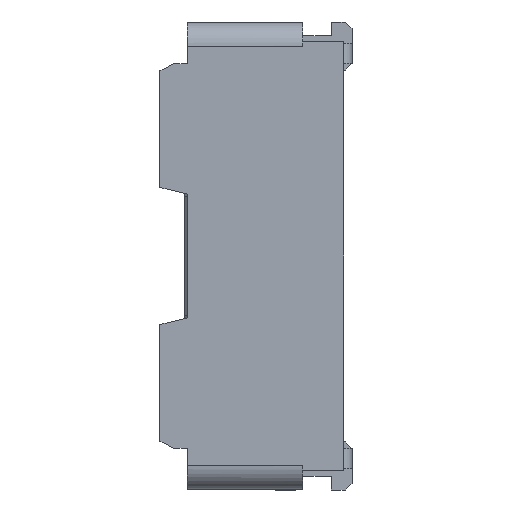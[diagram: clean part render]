
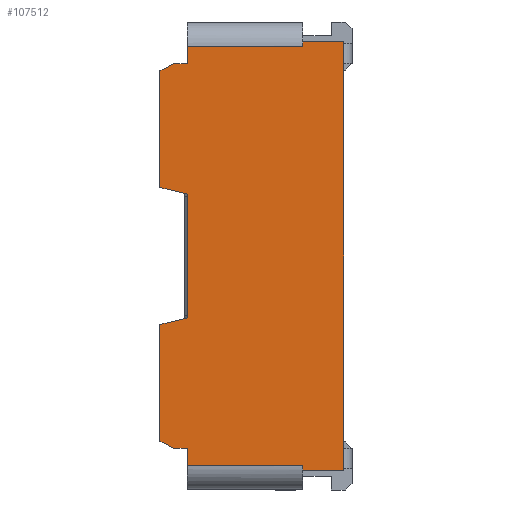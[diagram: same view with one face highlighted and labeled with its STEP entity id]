
A CAD part, left-side view. The second image highlights one B-rep face of the part: STEP entity #107512.
In plain terms, the highlighted planar face has unit normal (-1, 0, 0).
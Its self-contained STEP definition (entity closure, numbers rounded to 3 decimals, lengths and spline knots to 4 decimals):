
#4329=DIRECTION('',(0.,1.,0.));
#4330=VECTOR('',#4329,0.1);
#4331=CARTESIAN_POINT('',(-6.95,0.57,1.4));
#4332=LINE('',#4331,#4330);
#6887=DIRECTION('',(0.,0.,-1.));
#6888=VECTOR('',#6887,3.12);
#6889=CARTESIAN_POINT('',(-6.95,-0.57,1.56));
#6890=LINE('',#6889,#6888);
#38891=DIRECTION('',(0.,0.,1.));
#38892=VECTOR('',#38891,0.85);
#38893=CARTESIAN_POINT('',(-6.95,0.77,0.5));
#38894=LINE('',#38893,#38892);
#38916=DIRECTION('',(0.,0.,1.));
#38917=VECTOR('',#38916,0.85);
#38918=CARTESIAN_POINT('',(-6.95,0.77,-1.35));
#38919=LINE('',#38918,#38917);
#39130=DIRECTION('',(0.,0.,-1.));
#39131=VECTOR('',#39130,0.125);
#39132=CARTESIAN_POINT('',(-6.95,0.57,1.525));
#39133=LINE('',#39132,#39131);
#39134=DIRECTION('',(0.,-1.,0.));
#39135=VECTOR('',#39134,0.84);
#39136=CARTESIAN_POINT('',(-6.95,0.57,1.525));
#39137=LINE('',#39136,#39135);
#39138=DIRECTION('',(0.,0.,1.));
#39139=VECTOR('',#39138,0.035);
#39140=CARTESIAN_POINT('',(-6.95,-0.27,1.525));
#39141=LINE('',#39140,#39139);
#39142=DIRECTION('',(0.,1.,0.));
#39143=VECTOR('',#39142,0.3);
#39144=CARTESIAN_POINT('',(-6.95,-0.57,1.56));
#39145=LINE('',#39144,#39143);
#39146=DIRECTION('',(0.,1.,0.));
#39147=VECTOR('',#39146,0.3);
#39148=CARTESIAN_POINT('',(-6.95,-0.57,-1.56));
#39149=LINE('',#39148,#39147);
#39150=DIRECTION('',(0.,0.,-1.));
#39151=VECTOR('',#39150,0.035);
#39152=CARTESIAN_POINT('',(-6.95,-0.27,-1.525));
#39153=LINE('',#39152,#39151);
#39154=DIRECTION('',(0.,1.,0.));
#39155=VECTOR('',#39154,0.84);
#39156=CARTESIAN_POINT('',(-6.95,-0.27,-1.525));
#39157=LINE('',#39156,#39155);
#39158=DIRECTION('',(0.,0.,-1.));
#39159=VECTOR('',#39158,0.125);
#39160=CARTESIAN_POINT('',(-6.95,0.57,-1.4));
#39161=LINE('',#39160,#39159);
#39162=DIRECTION('',(0.,1.,0.));
#39163=VECTOR('',#39162,0.1);
#39164=CARTESIAN_POINT('',(-6.95,0.57,-1.4));
#39165=LINE('',#39164,#39163);
#39166=DIRECTION('',(0.,-0.894,-0.447));
#39167=VECTOR('',#39166,0.1118);
#39168=CARTESIAN_POINT('',(-6.95,0.77,-1.35));
#39169=LINE('',#39168,#39167);
#39170=DIRECTION('',(0.,0.97,-0.243));
#39171=VECTOR('',#39170,0.2062);
#39172=CARTESIAN_POINT('',(-6.95,0.57,-0.45));
#39173=LINE('',#39172,#39171);
#39174=DIRECTION('',(0.,0.,-1.));
#39175=VECTOR('',#39174,0.9);
#39176=CARTESIAN_POINT('',(-6.95,0.57,0.45));
#39177=LINE('',#39176,#39175);
#39178=DIRECTION('',(0.,-0.97,-0.243));
#39179=VECTOR('',#39178,0.2062);
#39180=CARTESIAN_POINT('',(-6.95,0.77,0.5));
#39181=LINE('',#39180,#39179);
#39182=DIRECTION('',(0.,0.894,-0.447));
#39183=VECTOR('',#39182,0.1118);
#39184=CARTESIAN_POINT('',(-6.95,0.67,1.4));
#39185=LINE('',#39184,#39183);
#39673=CARTESIAN_POINT('',(-6.95,-0.57,1.56));
#39674=CARTESIAN_POINT('',(-6.95,-0.57,-1.56));
#39675=VERTEX_POINT('',#39673);
#39676=VERTEX_POINT('',#39674);
#39765=CARTESIAN_POINT('',(-6.95,0.57,1.4));
#39767=VERTEX_POINT('',#39765);
#39769=CARTESIAN_POINT('',(-6.95,0.57,-1.4));
#39771=VERTEX_POINT('',#39769);
#40638=CARTESIAN_POINT('',(-6.95,-0.27,-1.56));
#40640=VERTEX_POINT('',#40638);
#40645=CARTESIAN_POINT('',(-6.95,0.57,1.525));
#40646=CARTESIAN_POINT('',(-6.95,-0.27,1.525));
#40647=VERTEX_POINT('',#40645);
#40648=VERTEX_POINT('',#40646);
#40651=CARTESIAN_POINT('',(-6.95,-0.27,1.56));
#40652=VERTEX_POINT('',#40651);
#40656=CARTESIAN_POINT('',(-6.95,0.57,-1.525));
#40658=VERTEX_POINT('',#40656);
#40659=CARTESIAN_POINT('',(-6.95,-0.27,-1.525));
#40660=VERTEX_POINT('',#40659);
#40847=CARTESIAN_POINT('',(-6.95,0.67,1.4));
#40849=VERTEX_POINT('',#40847);
#40851=CARTESIAN_POINT('',(-6.95,0.77,1.35));
#40853=VERTEX_POINT('',#40851);
#40856=CARTESIAN_POINT('',(-6.95,0.77,-1.35));
#40858=VERTEX_POINT('',#40856);
#40860=CARTESIAN_POINT('',(-6.95,0.67,-1.4));
#40862=VERTEX_POINT('',#40860);
#40895=CARTESIAN_POINT('',(-6.95,0.77,0.5));
#40896=CARTESIAN_POINT('',(-6.95,0.57,0.45));
#40897=VERTEX_POINT('',#40895);
#40898=VERTEX_POINT('',#40896);
#40907=CARTESIAN_POINT('',(-6.95,0.57,-0.45));
#40908=CARTESIAN_POINT('',(-6.95,0.77,-0.5));
#40909=VERTEX_POINT('',#40907);
#40910=VERTEX_POINT('',#40908);
#107480=CARTESIAN_POINT('',(-6.95,0.57,1.7));
#107481=DIRECTION('',(-1.,0.,0.));
#107482=DIRECTION('',(0.,-1.,0.));
#107483=AXIS2_PLACEMENT_3D('',#107480,#107481,#107482);
#107484=PLANE('',#107483);
#107485=ORIENTED_EDGE('',*,*,#56322,.F.);
#107486=ORIENTED_EDGE('',*,*,#52973,.F.);
#107488=ORIENTED_EDGE('',*,*,#107487,.T.);
#107490=ORIENTED_EDGE('',*,*,#107489,.T.);
#107491=ORIENTED_EDGE('',*,*,#55888,.F.);
#107492=ORIENTED_EDGE('',*,*,#59116,.T.);
#107493=ORIENTED_EDGE('',*,*,#57390,.T.);
#107495=ORIENTED_EDGE('',*,*,#107494,.F.);
#107497=ORIENTED_EDGE('',*,*,#107496,.T.);
#107498=ORIENTED_EDGE('',*,*,#52996,.F.);
#107499=ORIENTED_EDGE('',*,*,#56541,.T.);
#107501=ORIENTED_EDGE('',*,*,#107500,.F.);
#107502=ORIENTED_EDGE('',*,*,#107096,.T.);
#107504=ORIENTED_EDGE('',*,*,#107503,.F.);
#107505=ORIENTED_EDGE('',*,*,#53026,.F.);
#107507=ORIENTED_EDGE('',*,*,#107506,.F.);
#107508=ORIENTED_EDGE('',*,*,#107076,.T.);
#107509=ORIENTED_EDGE('',*,*,#107473,.F.);
#107510=EDGE_LOOP('',(#107485,#107486,#107488,#107490,#107491,#107492,#107493,
#107495,#107497,#107498,#107499,#107501,#107502,#107504,#107505,#107507,#107508,
#107509));
#107511=FACE_OUTER_BOUND('',#107510,.F.);
#107512=ADVANCED_FACE('',(#107511),#107484,.T.);
#52973=EDGE_CURVE('',#40647,#39767,#39133,.T.);
#52996=EDGE_CURVE('',#39771,#40658,#39161,.T.);
#53026=EDGE_CURVE('',#40898,#40909,#39177,.T.);
#55888=EDGE_CURVE('',#39675,#40652,#39145,.T.);
#56322=EDGE_CURVE('',#39767,#40849,#4332,.T.);
#56541=EDGE_CURVE('',#39771,#40862,#39165,.T.);
#57390=EDGE_CURVE('',#39676,#40640,#39149,.T.);
#59116=EDGE_CURVE('',#39675,#39676,#6890,.T.);
#107076=EDGE_CURVE('',#40897,#40853,#38894,.T.);
#107096=EDGE_CURVE('',#40858,#40910,#38919,.T.);
#107473=EDGE_CURVE('',#40849,#40853,#39185,.T.);
#107487=EDGE_CURVE('',#40647,#40648,#39137,.T.);
#107489=EDGE_CURVE('',#40648,#40652,#39141,.T.);
#107494=EDGE_CURVE('',#40660,#40640,#39153,.T.);
#107496=EDGE_CURVE('',#40660,#40658,#39157,.T.);
#107500=EDGE_CURVE('',#40858,#40862,#39169,.T.);
#107503=EDGE_CURVE('',#40909,#40910,#39173,.T.);
#107506=EDGE_CURVE('',#40897,#40898,#39181,.T.);
